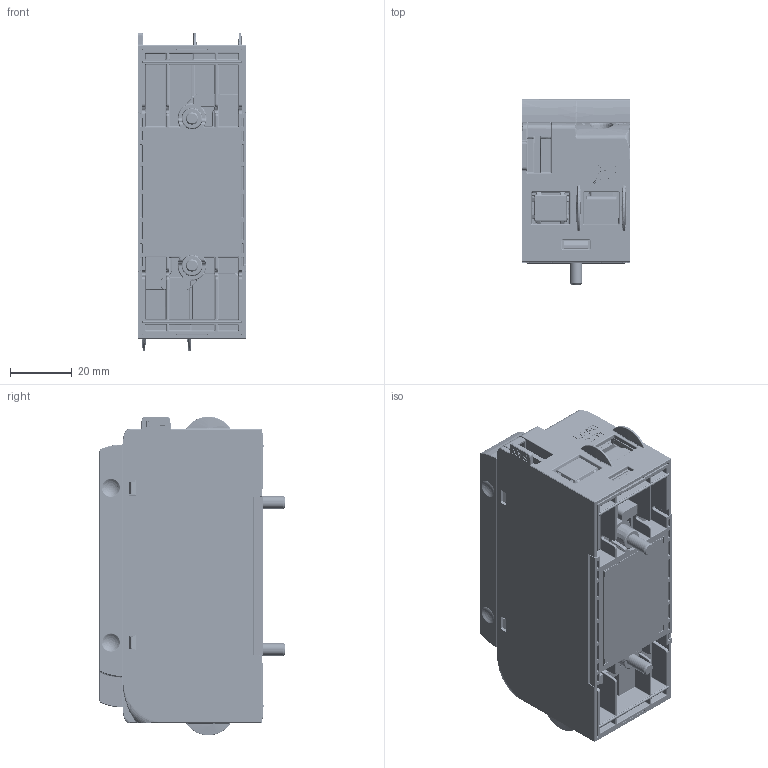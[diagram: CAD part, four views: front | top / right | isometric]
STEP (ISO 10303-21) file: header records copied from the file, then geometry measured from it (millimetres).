
FILE_DESCRIPTION((''),'2;1');
FILE_NAME('A1902_GRS','2020-09-09T16:15:32',('giuseppe.bertuccio'),('GEFRAN S.p.A'),'CREO PARAMETRIC BY PTC INC, 2018300','CREO PARAMETRIC BY PTC INC, 2018300','');
FILE_SCHEMA(('AUTOMOTIVE_DESIGN { 1 0 10303 214 1 1 1 1 }'));
Products named in the file (50): DIS00978_52865; DIS00973_5; DIS00973; A1902_67298; A1902_SHIELD; DIS01031_CTT279_AF1; DIS01031_CTT279; DIS00977_46230; 48226; DIS00977_46230A; A1902_T1; DIS00977_46230A_OPEN; A1902_T1_OPEN; PCB00111; PRT0018; DIS00993; A1901_MOV; DIS00979; 48225; PCB_EXP_LFT_AF0; PCB_EXP_LFT_AF7; DIS_EXP_LFT_HF; 45527_MASTER; G_SOT-323; G_SOT-23-5; G_SMD0402R; G_SMDSMB; PAD_SMD_4X2MM_R0_25MM; DIP6_SO-FAIRCHILD; G_SMD0603R; G_SMD0805R; SMD6123_1206; G_SMDMMELFR; G_SOT-23R; G_SMD1210R; DIP4_SO-SFH6186; CN-03X2SMD-SAMTEC-FLE-A; FIDMARK1MM; LEDSMD-LITEON-LTSTS220GKT-GEFRA; JHE_P02X1M0_254T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
Assembly tree (94 placements, depth 4):
  A1902_GRS
    DIS00978_52865
    DIS00973
      DIS00973_5
    A1902_67298
    A1902_SHIELD
    A1902_T1
      DIS01031_CTT279
        DIS01031_CTT279_AF1
      DIS00977_46230A
        DIS00977_46230
        48226
    A1902_T1_OPEN
      DIS01031_CTT279
        DIS01031_CTT279_AF1
      DIS00977_46230A_OPEN
        DIS00977_46230
        48226
    DIS00993
      PCB00111
        PCB00111
        PRT0018
    A1901_MOV
    DIS00979
      DIS00979
    48225  x2
    DIS_EXP_LFT_HF
      PCB_EXP_LFT_AF7
        PCB_EXP_LFT_AF0
    DIS01000_MASTER_AC
      45527_MASTER
        45527_MASTER
        G_SOT-323  x4
        G_SOT-23-5  x2
        G_SMD0402R  x26
        G_SMDSMB  x2
        PAD_SMD_4X2MM_R0_25MM  x4
        DIP6_SO-FAIRCHILD  x2
        G_SMD0603R  x2
        G_SMD0805R
        SMD6123_1206
        G_SMDMMELFR  x2
        G_SOT-23R  x2
        G_SMD1210R  x2
        DIP4_SO-SFH6186
        CN-03X2SMD-SAMTEC-FLE-A
        FIDMARK1MM  x2
        LEDSMD-LITEON-LTSTS220GKT-GEFRA  x2
        JHE_P02X1M0_254T
        PAD_SMD_2X2MMA  x2
    DIS00980_MOULD
      DIS00980_MOULD
    DIS00959_MARKED
    DIS00959_M_SIZES
Bounding box: 35 x 59.9 x 103 mm (x, y, z)
Volume: 58532.7 mm3; surface area: 96903.2 mm2
Topology: 108 solids, 108 shells, 11500 faces, 28122 edges, 16857 vertices
Faces by surface type: plane 4564, cylinder 3580, bspline 1420, sphere 728, torus 468, extrusion 386, cone 336, revolution 18
Entity records: 494854 total; most frequent: CARTESIAN_POINT 136822, ORIENTED_EDGE 46922, DIRECTION 41540, PRESENTATION_STYLE_ASSIGNMENT 30352, STYLED_ITEM 30143, EDGE_CURVE 23461, CURVE_STYLE 21663, AXIS2_PLACEMENT_3D 14095
